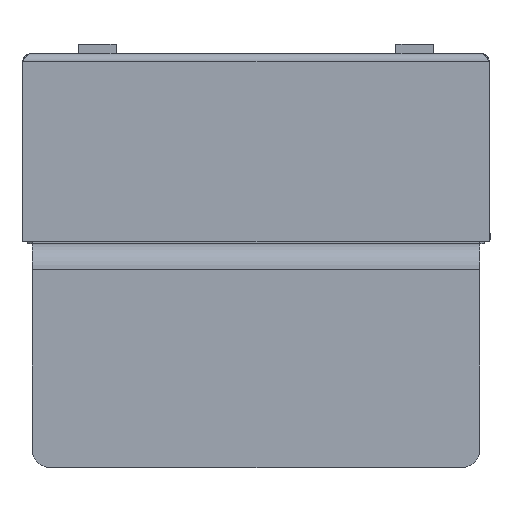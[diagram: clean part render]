
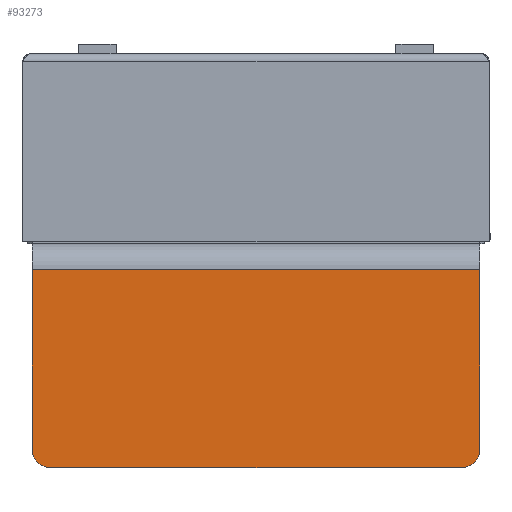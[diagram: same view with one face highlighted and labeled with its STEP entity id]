
A CAD part, front view. The second image highlights one B-rep face of the part: STEP entity #93273.
In plain terms, the highlighted planar face has unit normal (0, -1, 0).
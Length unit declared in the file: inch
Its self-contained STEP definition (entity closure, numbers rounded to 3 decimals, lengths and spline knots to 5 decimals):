
#1312 = CARTESIAN_POINT ( 'NONE',  ( 3., -6.125, -2.55 ) ) ;
#1400 = ORIENTED_EDGE ( 'NONE', *, *, #45297, .T. ) ;
#1707 = AXIS2_PLACEMENT_3D ( 'NONE', #5390, #65376, #14029 ) ;
#3312 = EDGE_CURVE ( 'NONE', #21722, #79569, #4987, .T. ) ;
#4987 = LINE ( 'NONE', #1312, #47844 ) ;
#5123 = EDGE_CURVE ( 'NONE', #79569, #27035, #62439, .T. ) ;
#5390 = CARTESIAN_POINT ( 'NONE',  ( -2.75, -6.125, -5.3 ) ) ;
#14029 = DIRECTION ( 'NONE',  ( 1., 0., 0. ) ) ;
#18471 = VECTOR ( 'NONE', #99623, 39.37008 ) ;
#21541 = CARTESIAN_POINT ( 'NONE',  ( 2.75, -6.125, -5.3 ) ) ;
#21722 = VERTEX_POINT ( 'NONE', #82873 ) ;
#24094 = ORIENTED_EDGE ( 'NONE', *, *, #5123, .T. ) ;
#24612 = FACE_OUTER_BOUND ( 'NONE', #82862, .T. ) ;
#27035 = VERTEX_POINT ( 'NONE', #36397 ) ;
#28082 = CARTESIAN_POINT ( 'NONE',  ( 3., -6.125, -2.898 ) ) ;
#28901 = VERTEX_POINT ( 'NONE', #39255 ) ;
#29603 = PLANE ( 'NONE',  #54015 ) ;
#29808 = DIRECTION ( 'NONE',  ( 0., 0., 1. ) ) ;
#30121 = DIRECTION ( 'NONE',  ( 1., 0., 0. ) ) ;
#31715 = CIRCLE ( 'NONE', #1707, 0.25 ) ;
#36397 = CARTESIAN_POINT ( 'NONE',  ( -3., -6.125, -2.898 ) ) ;
#37073 = CIRCLE ( 'NONE', #101463, 0.25 ) ;
#38370 = CARTESIAN_POINT ( 'NONE',  ( 3., -6.125, -2.898 ) ) ;
#39255 = CARTESIAN_POINT ( 'NONE',  ( -2.75, -6.125, -5.55 ) ) ;
#41254 = CARTESIAN_POINT ( 'NONE',  ( -3., -6.125, -5.3 ) ) ;
#41430 = LINE ( 'NONE', #89857, #87184 ) ;
#42164 = VERTEX_POINT ( 'NONE', #83220 ) ;
#43888 = LINE ( 'NONE', #65171, #18471 ) ;
#45297 = EDGE_CURVE ( 'NONE', #28901, #42164, #43888, .T. ) ;
#46816 = DIRECTION ( 'NONE',  ( 1., 0., 0. ) ) ;
#47844 = VECTOR ( 'NONE', #103242, 39.37008 ) ;
#51600 = EDGE_CURVE ( 'NONE', #93027, #27035, #41430, .T. ) ;
#52715 = ORIENTED_EDGE ( 'NONE', *, *, #3312, .T. ) ;
#54015 = AXIS2_PLACEMENT_3D ( 'NONE', #89657, #98230, #46816 ) ;
#54670 = EDGE_CURVE ( 'NONE', #42164, #21722, #37073, .T. ) ;
#54741 = EDGE_CURVE ( 'NONE', #93027, #28901, #31715, .T. ) ;
#59699 = VECTOR ( 'NONE', #70880, 39.37008 ) ;
#62439 = LINE ( 'NONE', #28082, #59699 ) ;
#62982 = ORIENTED_EDGE ( 'NONE', *, *, #54741, .T. ) ;
#65171 = CARTESIAN_POINT ( 'NONE',  ( -3., -6.125, -5.55 ) ) ;
#65376 = DIRECTION ( 'NONE',  ( 0., -1., 0. ) ) ;
#70880 = DIRECTION ( 'NONE',  ( -1., 0., 0. ) ) ;
#74962 = ORIENTED_EDGE ( 'NONE', *, *, #54670, .T. ) ;
#79569 = VERTEX_POINT ( 'NONE', #38370 ) ;
#81528 = DIRECTION ( 'NONE',  ( 0., -1., 0. ) ) ;
#82862 = EDGE_LOOP ( 'NONE', ( #1400, #74962, #52715, #24094, #85291, #62982 ) ) ;
#82873 = CARTESIAN_POINT ( 'NONE',  ( 3., -6.125, -5.3 ) ) ;
#83220 = CARTESIAN_POINT ( 'NONE',  ( 2.75, -6.125, -5.55 ) ) ;
#85291 = ORIENTED_EDGE ( 'NONE', *, *, #51600, .F. ) ;
#87184 = VECTOR ( 'NONE', #29808, 39.37008 ) ;
#89657 = CARTESIAN_POINT ( 'NONE',  ( -3., -6.125, -2.55 ) ) ;
#89857 = CARTESIAN_POINT ( 'NONE',  ( -3., -6.125, -2.55 ) ) ;
#93027 = VERTEX_POINT ( 'NONE', #41254 ) ;
#93273 = ADVANCED_FACE ( 'NONE', ( #24612 ), #29603, .F. ) ;
#98230 = DIRECTION ( 'NONE',  ( 0., 1., 0. ) ) ;
#99623 = DIRECTION ( 'NONE',  ( 1., 0., 0. ) ) ;
#101463 = AXIS2_PLACEMENT_3D ( 'NONE', #21541, #81528, #30121 ) ;
#103242 = DIRECTION ( 'NONE',  ( 0., 0., 1. ) ) ;
